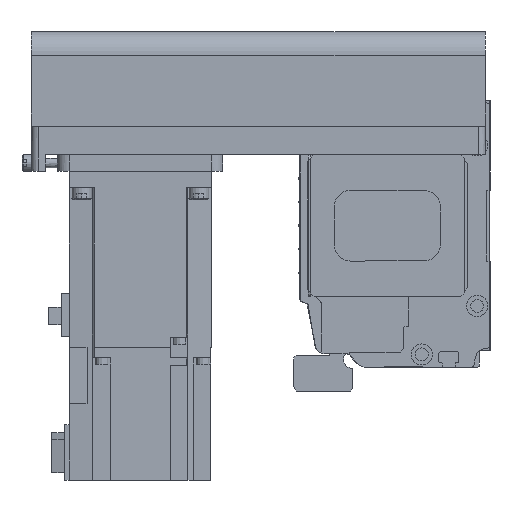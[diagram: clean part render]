
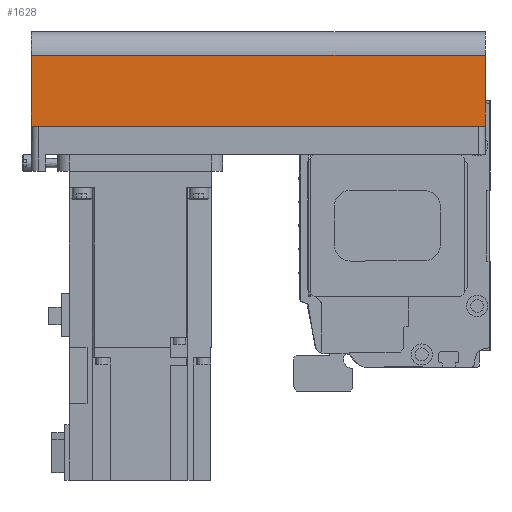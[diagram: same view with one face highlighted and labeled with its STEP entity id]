
A CAD part, left-side view. The second image highlights one B-rep face of the part: STEP entity #1628.
In plain terms, the highlighted planar face has unit normal (-1, 0, 0) as drawn and (0, 1, 0) by its records, which use the part's own axes.
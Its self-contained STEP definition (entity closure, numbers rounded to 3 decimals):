
#1628 = ADVANCED_FACE( '', ( #3697 ), #3698, .T. );
#3697 = FACE_OUTER_BOUND( '', #6281, .T. );
#3698 = PLANE( '', #6282 );
#6281 = EDGE_LOOP( '', ( #10571, #10572, #10573, #10574 ) );
#6282 = AXIS2_PLACEMENT_3D( '', #10575, #10576, #10577 );
#10571 = ORIENTED_EDGE( '', *, *, #15900, .F. );
#10572 = ORIENTED_EDGE( '', *, *, #15743, .F. );
#10573 = ORIENTED_EDGE( '', *, *, #15042, .T. );
#10574 = ORIENTED_EDGE( '', *, *, #15901, .T. );
#10575 = CARTESIAN_POINT( '', ( -192., 40., -42. ) );
#10576 = DIRECTION( '', ( 0., 1., 0. ) );
#10577 = DIRECTION( '', ( 0., 0., 1. ) );
#15042 = EDGE_CURVE( '', #18103, #18100, #18104, .T. );
#15743 = EDGE_CURVE( '', #18103, #19212, #19214, .T. );
#15900 = EDGE_CURVE( '', #19212, #19444, #19445, .T. );
#15901 = EDGE_CURVE( '', #18100, #19444, #19446, .T. );
#18100 = VERTEX_POINT( '', #22269 );
#18103 = VERTEX_POINT( '', #22273 );
#18104 = LINE( '', #22274, #22275 );
#19212 = VERTEX_POINT( '', #23743 );
#19214 = LINE( '', #23745, #23746 );
#19444 = VERTEX_POINT( '', #24045 );
#19445 = LINE( '', #24046, #24047 );
#19446 = LINE( '', #24048, #24049 );
#22269 = CARTESIAN_POINT( '', ( -192., 40., -12.1 ) );
#22273 = CARTESIAN_POINT( '', ( -192., 40., -42. ) );
#22274 = CARTESIAN_POINT( '', ( -192., 40., -42. ) );
#22275 = VECTOR( '', #26674, 1000. );
#23743 = CARTESIAN_POINT( '', ( 0., 40., -42. ) );
#23745 = CARTESIAN_POINT( '', ( -192., 40., -42. ) );
#23746 = VECTOR( '', #27557, 1000. );
#24045 = CARTESIAN_POINT( '', ( 0., 40., -12.1 ) );
#24046 = CARTESIAN_POINT( '', ( 0., 40., -42. ) );
#24047 = VECTOR( '', #27738, 1000. );
#24048 = CARTESIAN_POINT( '', ( -192., 40., -12.1 ) );
#24049 = VECTOR( '', #27739, 1000. );
#26674 = DIRECTION( '', ( 0., 0., 1. ) );
#27557 = DIRECTION( '', ( 1., 0., 0. ) );
#27738 = DIRECTION( '', ( 0., 0., 1. ) );
#27739 = DIRECTION( '', ( 1., 0., 0. ) );
